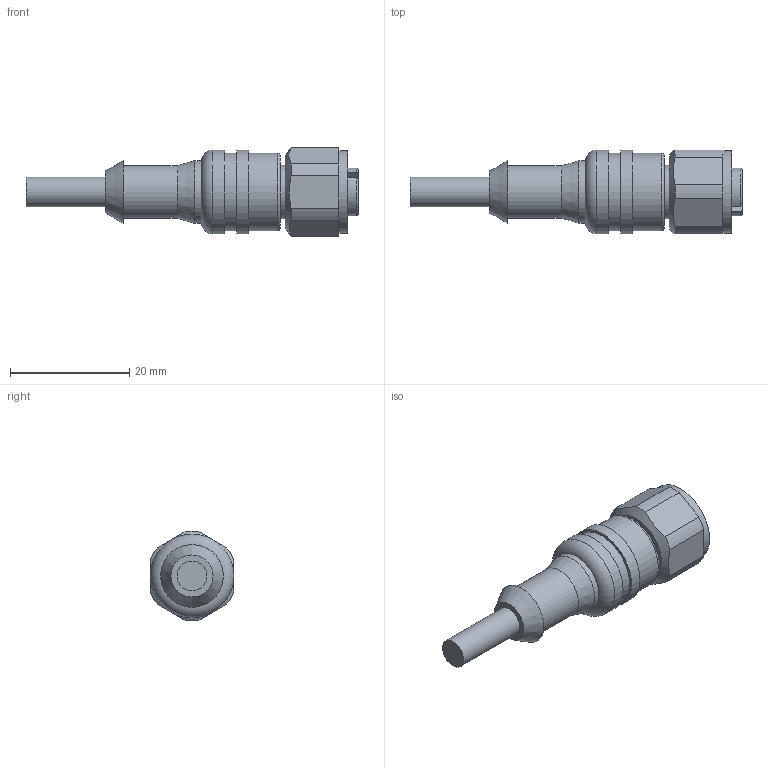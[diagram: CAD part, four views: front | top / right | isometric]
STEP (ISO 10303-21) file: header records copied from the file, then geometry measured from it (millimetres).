
FILE_DESCRIPTION(/* description */ ('STEP AP214'),/* implementation_level */ '2;1');
FILE_NAME(/* name */ 'P_MZ_SUV_0128',/* time_stamp */ '2023-03-03T11:01:33+01:00',/* author */ ('License CC BY-ND 4.0'),/* organization */ ('CADENAS'),/* preprocessor_version */ 'ST-DEVELOPER v18.102',/* originating_system */ 'PARTsolutions',/* authorisation */ ' ');
FILE_SCHEMA (('AUTOMOTIVE_DESIGN {1 0 10303 214 3 1 1}'));
Length unit declared in the file: millimetre
Products named in the file (1): P_MZ_SUV_0128
Bounding box: 55.6 x 14 x 14.99 mm (x, y, z)
Volume: 4648 mm3; surface area: 2784.7 mm2
Topology: 1 solids, 1 shells, 54 faces, 111 edges, 71 vertices
Faces by surface type: plane 26, cylinder 19, cone 5, torus 4
Full cylindrical faces by diameter (mm): 5 x1, 8 x1, 8.8 x1, 9 x1, 10.106 x1, 10.5 x1, 10.917 x1, 12 x1, 13 x2, 13.75 x1, 14 x2
Entity records: 1725 total; most frequent: CARTESIAN_POINT 242, DIRECTION 238, ORIENTED_EDGE 176, AXIS2_PLACEMENT_3D 103, EDGE_CURVE 88, EDGE_LOOP 87, FACE_BOUND 87, VERTEX_POINT 69
